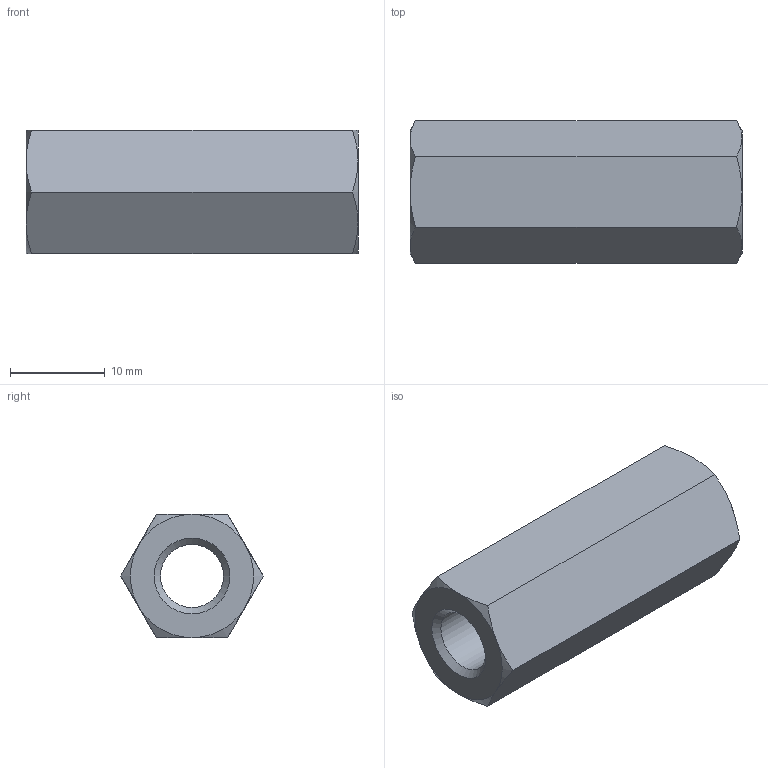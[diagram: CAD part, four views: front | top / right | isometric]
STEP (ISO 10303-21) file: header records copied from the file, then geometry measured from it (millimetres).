
FILE_DESCRIPTION( ( 'STEP AP203' ), '1' );
FILE_NAME( 'C:/Temp/Ganter_Step_05_03_2020/data/3_2/gn6220/gn6220_ni/Stainless Steel-Spacer GN 6220-NI-M8-35-A.stp', '2020-03-13T05:43:05', ( 'License CC BY-ND 4.0' ), ( 'CADENAS' ), ' ', 'PARTsolutions', ' ' );
FILE_SCHEMA( ( 'CONFIG_CONTROL_DESIGN' ) );
Length unit declared in the file: millimetre
Products named in the file (1): _Stainless Steel-Spacer GN 6220-NI-M8-35-A
Bounding box: 35 x 15.01 x 13 mm (x, y, z)
Volume: 3893 mm3; surface area: 2501.3 mm2
Topology: 1 solids, 1 shells, 23 faces, 49 edges, 28 vertices
Faces by surface type: cone 14, plane 8, cylinder 1
Full cylindrical faces by diameter (mm): 6.647 x1
Entity records: 728 total; most frequent: CARTESIAN_POINT 234, ORIENTED_EDGE 92, DIRECTION 86, EDGE_CURVE 46, AXIS2_PLACEMENT_3D 40, EDGE_LOOP 28, VERTEX_POINT 28, FACE_OUTER_BOUND 24
